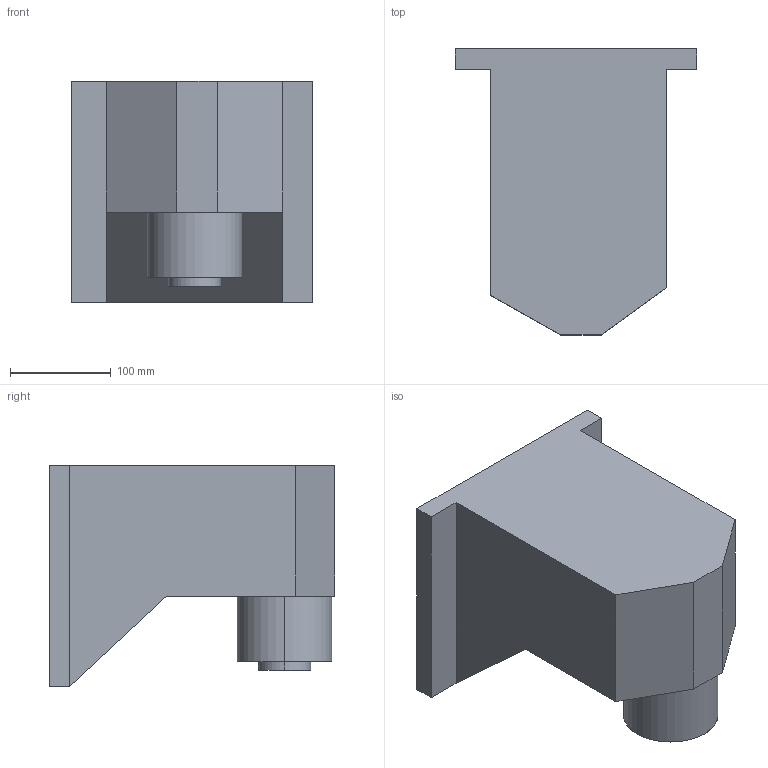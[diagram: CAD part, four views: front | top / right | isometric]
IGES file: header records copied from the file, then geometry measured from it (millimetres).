
Start section: SolidWorks IGES FILE using analytic representation for surfaces
Global section: file name: C:\Documents and Settings\lepoivre\Mes documents\Formation continue\NCSIMUL\aurelie\broche.IGS; native system: SolidWorks 2003 by SolidWorks Corporation; preprocessor: Version 5.3; author: lepoivre; date: 050317.180741; units: millimetre
Bounding box: 240 x 284 x 220 mm (x, y, z)
Surface area: 291168.8 mm2 (no closed solid volume)
Topology: 0 solids, 0 shells, 20 faces, 340 edges, 340 vertices
Faces by surface type: bspline 16, revolution 4
